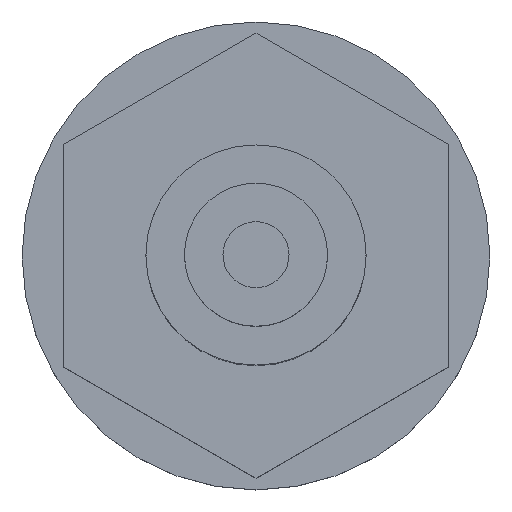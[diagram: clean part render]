
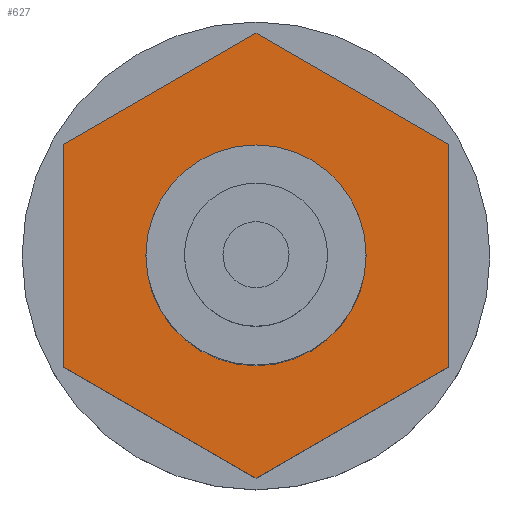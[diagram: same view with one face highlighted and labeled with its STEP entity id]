
A CAD part, top view. The second image highlights one B-rep face of the part: STEP entity #627.
In plain terms, the highlighted planar face has unit normal (0, 0, 1) as drawn and (-1, 0, 0) by its records, which use the part's own axes.
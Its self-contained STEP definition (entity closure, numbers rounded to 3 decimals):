
#627 = ADVANCED_FACE ( 'NONE', ( #1413, #1412 ), #1411, .T. ) ;
#628 = EDGE_LOOP ( 'NONE', ( #629, #682, #685, #688, #691, #694 ) ) ;
#629 = ORIENTED_EDGE ( 'NONE', *, *, #630, .T. ) ;
#630 = EDGE_CURVE ( 'NONE', #631, #681, #1406, .T. ) ;
#631 = VERTEX_POINT ( 'NONE', #1402 ) ;
#665 = EDGE_LOOP ( 'NONE', ( #666, #667 ) ) ;
#666 = ORIENTED_EDGE ( 'NONE', *, *, #696, .F. ) ;
#667 = ORIENTED_EDGE ( 'NONE', *, *, #668, .F. ) ;
#668 = EDGE_CURVE ( 'NONE', #698, #697, #1483, .T. ) ;
#681 = VERTEX_POINT ( 'NONE', #1455 ) ;
#682 = ORIENTED_EDGE ( 'NONE', *, *, #683, .T. ) ;
#683 = EDGE_CURVE ( 'NONE', #681, #684, #1454, .T. ) ;
#684 = VERTEX_POINT ( 'NONE', #1516 ) ;
#685 = ORIENTED_EDGE ( 'NONE', *, *, #686, .T. ) ;
#686 = EDGE_CURVE ( 'NONE', #684, #687, #1515, .T. ) ;
#687 = VERTEX_POINT ( 'NONE', #1511 ) ;
#688 = ORIENTED_EDGE ( 'NONE', *, *, #689, .T. ) ;
#689 = EDGE_CURVE ( 'NONE', #687, #690, #1510, .T. ) ;
#690 = VERTEX_POINT ( 'NONE', #1506 ) ;
#691 = ORIENTED_EDGE ( 'NONE', *, *, #692, .T. ) ;
#692 = EDGE_CURVE ( 'NONE', #690, #693, #1505, .T. ) ;
#693 = VERTEX_POINT ( 'NONE', #1501 ) ;
#694 = ORIENTED_EDGE ( 'NONE', *, *, #695, .T. ) ;
#695 = EDGE_CURVE ( 'NONE', #693, #631, #1500, .T. ) ;
#696 = EDGE_CURVE ( 'NONE', #697, #698, #1496, .T. ) ;
#697 = VERTEX_POINT ( 'NONE', #1491 ) ;
#698 = VERTEX_POINT ( 'NONE', #1490 ) ;
#1402 = CARTESIAN_POINT ( 'NONE',  ( 10.1, 2.021, 3.5 ) ) ;
#1403 = DIRECTION ( 'NONE',  ( 0., 0.5, -0.866 ) ) ;
#1404 = VECTOR ( 'NONE', #1403, 1000. ) ;
#1405 = CARTESIAN_POINT ( 'NONE',  ( 10.1, 2.021, 3.5 ) ) ;
#1406 = LINE ( 'NONE', #1405, #1404 ) ;
#1407 = DIRECTION ( 'NONE',  ( 0., -1., 0. ) ) ;
#1408 = DIRECTION ( 'NONE',  ( -1., 0., 0. ) ) ;
#1409 = CARTESIAN_POINT ( 'NONE',  ( 10.1, 4.041, 0. ) ) ;
#1410 = AXIS2_PLACEMENT_3D ( 'NONE', #1409, #1408, #1407 ) ;
#1411 = PLANE ( 'NONE',  #1410 ) ;
#1412 = FACE_BOUND ( 'NONE', #665, .T. ) ;
#1413 = FACE_OUTER_BOUND ( 'NONE', #628, .T. ) ;
#1453 = CARTESIAN_POINT ( 'NONE',  ( 10.1, 4.041, 0. ) ) ;
#1454 = LINE ( 'NONE', #1453, #1518 ) ;
#1455 = CARTESIAN_POINT ( 'NONE',  ( 10.1, 4.041, 0. ) ) ;
#1479 = DIRECTION ( 'NONE',  ( 0., -1., 0. ) ) ;
#1480 = DIRECTION ( 'NONE',  ( -1., 0., 0. ) ) ;
#1481 = CARTESIAN_POINT ( 'NONE',  ( 10.1, 0., 0. ) ) ;
#1482 = AXIS2_PLACEMENT_3D ( 'NONE', #1481, #1480, #1479 ) ;
#1483 = CIRCLE ( 'NONE', #1482, 2. ) ;
#1490 = CARTESIAN_POINT ( 'NONE',  ( 10.1, -2., 0. ) ) ;
#1491 = CARTESIAN_POINT ( 'NONE',  ( 10.1, 2., 0. ) ) ;
#1492 = DIRECTION ( 'NONE',  ( 0., -1., 0. ) ) ;
#1493 = DIRECTION ( 'NONE',  ( -1., 0., 0. ) ) ;
#1494 = CARTESIAN_POINT ( 'NONE',  ( 10.1, 0., 0. ) ) ;
#1495 = AXIS2_PLACEMENT_3D ( 'NONE', #1494, #1493, #1492 ) ;
#1496 = CIRCLE ( 'NONE', #1495, 2. ) ;
#1497 = DIRECTION ( 'NONE',  ( 0., 1., 0. ) ) ;
#1498 = VECTOR ( 'NONE', #1497, 1000. ) ;
#1499 = CARTESIAN_POINT ( 'NONE',  ( 10.1, -2.021, 3.5 ) ) ;
#1500 = LINE ( 'NONE', #1499, #1498 ) ;
#1501 = CARTESIAN_POINT ( 'NONE',  ( 10.1, -2.021, 3.5 ) ) ;
#1502 = DIRECTION ( 'NONE',  ( 0., 0.5, 0.866 ) ) ;
#1503 = VECTOR ( 'NONE', #1502, 1000. ) ;
#1504 = CARTESIAN_POINT ( 'NONE',  ( 10.1, -4.041, 0. ) ) ;
#1505 = LINE ( 'NONE', #1504, #1503 ) ;
#1506 = CARTESIAN_POINT ( 'NONE',  ( 10.1, -4.041, 0. ) ) ;
#1507 = DIRECTION ( 'NONE',  ( 0., -0.5, 0.866 ) ) ;
#1508 = VECTOR ( 'NONE', #1507, 1000. ) ;
#1509 = CARTESIAN_POINT ( 'NONE',  ( 10.1, -2.021, -3.5 ) ) ;
#1510 = LINE ( 'NONE', #1509, #1508 ) ;
#1511 = CARTESIAN_POINT ( 'NONE',  ( 10.1, -2.021, -3.5 ) ) ;
#1512 = DIRECTION ( 'NONE',  ( 0., -1., 0. ) ) ;
#1513 = VECTOR ( 'NONE', #1512, 1000. ) ;
#1514 = CARTESIAN_POINT ( 'NONE',  ( 10.1, 2.021, -3.5 ) ) ;
#1515 = LINE ( 'NONE', #1514, #1513 ) ;
#1516 = CARTESIAN_POINT ( 'NONE',  ( 10.1, 2.021, -3.5 ) ) ;
#1517 = DIRECTION ( 'NONE',  ( 0., -0.5, -0.866 ) ) ;
#1518 = VECTOR ( 'NONE', #1517, 1000. ) ;
